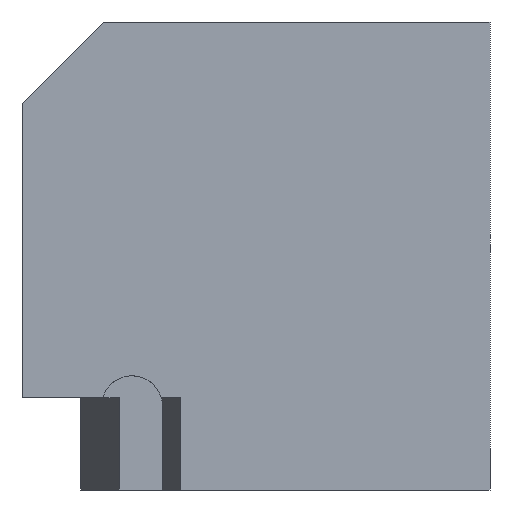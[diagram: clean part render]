
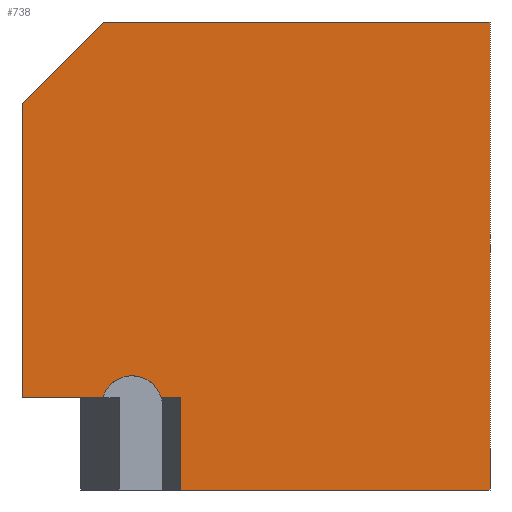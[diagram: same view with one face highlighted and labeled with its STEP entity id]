
A CAD part, front view. The second image highlights one B-rep face of the part: STEP entity #738.
In plain terms, the highlighted planar face has unit normal (0, -1, 0).
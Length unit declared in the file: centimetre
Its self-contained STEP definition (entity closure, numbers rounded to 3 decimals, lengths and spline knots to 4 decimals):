
#6 = ORIENTED_EDGE ( 'NONE', *, *, #421, .T. ) ;
#12 = EDGE_CURVE ( 'NONE', #609, #186, #517, .T. ) ;
#18 = VERTEX_POINT ( 'NONE', #755 ) ;
#20 = LINE ( 'NONE', #251, #419 ) ;
#28 = LINE ( 'NONE', #328, #271 ) ;
#37 = DIRECTION ( 'NONE',  ( 0., 0., -1. ) ) ;
#45 = CARTESIAN_POINT ( 'NONE',  ( 0., 0., 0. ) ) ;
#48 = VERTEX_POINT ( 'NONE', #635 ) ;
#50 = EDGE_CURVE ( 'NONE', #504, #730, #388, .T. ) ;
#70 = ORIENTED_EDGE ( 'NONE', *, *, #12, .T. ) ;
#76 = LINE ( 'NONE', #138, #78 ) ;
#78 = VECTOR ( 'NONE', #191, 100. ) ;
#87 = FACE_OUTER_BOUND ( 'NONE', #660, .T. ) ;
#100 = CIRCLE ( 'NONE', #495, 65.253 ) ;
#121 = ORIENTED_EDGE ( 'NONE', *, *, #308, .T. ) ;
#136 = CARTESIAN_POINT ( 'NONE',  ( 173.9334, 0., 1000. ) ) ;
#138 = CARTESIAN_POINT ( 'NONE',  ( 339.3664, 0., 197.3147 ) ) ;
#151 = CARTESIAN_POINT ( 'NONE',  ( 0., 0., 1000. ) ) ;
#166 = VERTEX_POINT ( 'NONE', #413 ) ;
#178 = ORIENTED_EDGE ( 'NONE', *, *, #598, .T. ) ;
#185 = ORIENTED_EDGE ( 'NONE', *, *, #50, .F. ) ;
#186 = VERTEX_POINT ( 'NONE', #597 ) ;
#188 = ORIENTED_EDGE ( 'NONE', *, *, #581, .F. ) ;
#191 = DIRECTION ( 'NONE',  ( -1., 0., 0. ) ) ;
#205 = DIRECTION ( 'NONE',  ( 0., 1., 0. ) ) ;
#208 = PLANE ( 'NONE',  #438 ) ;
#251 = CARTESIAN_POINT ( 'NONE',  ( 0., 0., 1000. ) ) ;
#271 = VECTOR ( 'NONE', #37, 100. ) ;
#279 = DIRECTION ( 'NONE',  ( 0., 0., 1. ) ) ;
#300 = VERTEX_POINT ( 'NONE', #552 ) ;
#308 = EDGE_CURVE ( 'NONE', #18, #534, #547, .T. ) ;
#328 = CARTESIAN_POINT ( 'NONE',  ( 1000., 0., 1000. ) ) ;
#343 = EDGE_CURVE ( 'NONE', #18, #48, #20, .T. ) ;
#353 = EDGE_CURVE ( 'NONE', #300, #166, #76, .T. ) ;
#371 = ORIENTED_EDGE ( 'NONE', *, *, #353, .F. ) ;
#388 = LINE ( 'NONE', #691, #516 ) ;
#393 = CARTESIAN_POINT ( 'NONE',  ( 0., 0., 1000. ) ) ;
#396 = DIRECTION ( 'NONE',  ( 0., 0., -1. ) ) ;
#401 = DIRECTION ( 'NONE',  ( -1., 0., 0. ) ) ;
#413 = CARTESIAN_POINT ( 'NONE',  ( 0., 0., 197.3147 ) ) ;
#419 = VECTOR ( 'NONE', #487, 100. ) ;
#421 = EDGE_CURVE ( 'NONE', #504, #609, #543, .T. ) ;
#428 = VECTOR ( 'NONE', #396, 100. ) ;
#436 = DIRECTION ( 'NONE',  ( -0.707, 0., -0.707 ) ) ;
#438 = AXIS2_PLACEMENT_3D ( 'NONE', #393, #205, #279 ) ;
#454 = LINE ( 'NONE', #151, #428 ) ;
#457 = CARTESIAN_POINT ( 'NONE',  ( 339.3664, 0., 197.3147 ) ) ;
#469 = VECTOR ( 'NONE', #687, 100. ) ;
#487 = DIRECTION ( 'NONE',  ( 1., 0., 0. ) ) ;
#488 = CARTESIAN_POINT ( 'NONE',  ( 339.3664, 0., 197.3147 ) ) ;
#495 = AXIS2_PLACEMENT_3D ( 'NONE', #741, #618, #678 ) ;
#499 = VECTOR ( 'NONE', #436, 100. ) ;
#504 = VERTEX_POINT ( 'NONE', #457 ) ;
#516 = VECTOR ( 'NONE', #401, 100. ) ;
#517 = LINE ( 'NONE', #45, #469 ) ;
#518 = EDGE_CURVE ( 'NONE', #730, #300, #100, .T. ) ;
#522 = VECTOR ( 'NONE', #721, 100. ) ;
#534 = VERTEX_POINT ( 'NONE', #622 ) ;
#543 = LINE ( 'NONE', #488, #522 ) ;
#547 = LINE ( 'NONE', #136, #499 ) ;
#552 = CARTESIAN_POINT ( 'NONE',  ( 172.3928, 0., 197.3147 ) ) ;
#581 = EDGE_CURVE ( 'NONE', #48, #186, #28, .T. ) ;
#597 = CARTESIAN_POINT ( 'NONE',  ( 1000., 0., 0. ) ) ;
#598 = EDGE_CURVE ( 'NONE', #534, #166, #454, .T. ) ;
#609 = VERTEX_POINT ( 'NONE', #757 ) ;
#618 = DIRECTION ( 'NONE',  ( 0., -1., 0. ) ) ;
#622 = CARTESIAN_POINT ( 'NONE',  ( 0., 0., 826.0666 ) ) ;
#635 = CARTESIAN_POINT ( 'NONE',  ( 1000., 0., 1000. ) ) ;
#660 = EDGE_LOOP ( 'NONE', ( #371, #762, #185, #6, #70, #188, #753, #121, #178 ) ) ;
#675 = CARTESIAN_POINT ( 'NONE',  ( 297.4797, 0., 197.3147 ) ) ;
#678 = DIRECTION ( 'NONE',  ( 0., 0., 1. ) ) ;
#687 = DIRECTION ( 'NONE',  ( 1., 0., 0. ) ) ;
#691 = CARTESIAN_POINT ( 'NONE',  ( 339.3664, 0., 197.3147 ) ) ;
#721 = DIRECTION ( 'NONE',  ( 0., 0., -1. ) ) ;
#730 = VERTEX_POINT ( 'NONE', #675 ) ;
#738 = ADVANCED_FACE ( 'NONE', ( #87 ), #208, .F. ) ;
#741 = CARTESIAN_POINT ( 'NONE',  ( 234.9362, 0., 178.7064 ) ) ;
#753 = ORIENTED_EDGE ( 'NONE', *, *, #343, .F. ) ;
#755 = CARTESIAN_POINT ( 'NONE',  ( 173.9334, 0., 1000. ) ) ;
#757 = CARTESIAN_POINT ( 'NONE',  ( 339.3664, 0., 0. ) ) ;
#762 = ORIENTED_EDGE ( 'NONE', *, *, #518, .F. ) ;
